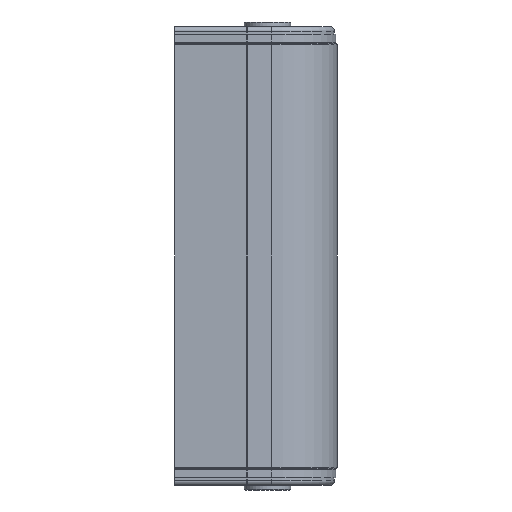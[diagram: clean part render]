
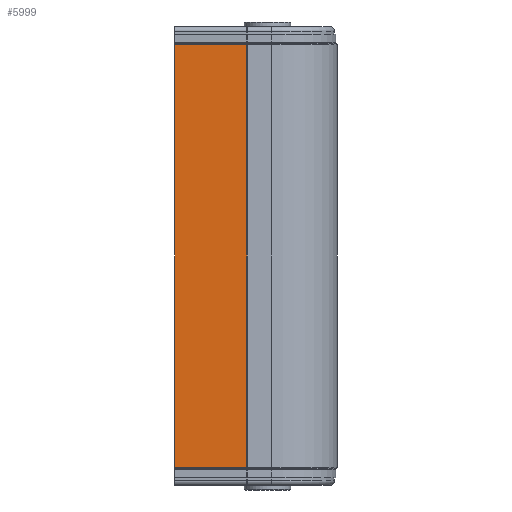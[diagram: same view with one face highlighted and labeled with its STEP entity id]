
A CAD part, front view. The second image highlights one B-rep face of the part: STEP entity #5999.
In plain terms, the highlighted planar face has unit normal (0, -1, 0).
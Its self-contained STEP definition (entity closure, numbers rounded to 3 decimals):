
#151 = DIRECTION ( 'NONE',  ( 0., 0., -1. ) ) ;
#623 = CARTESIAN_POINT ( 'NONE',  ( -100., -76.7, 227.6 ) ) ;
#813 = EDGE_CURVE ( 'NONE', #7490, #4607, #2989, .T. ) ;
#1000 = ORIENTED_EDGE ( 'NONE', *, *, #5049, .T. ) ;
#1053 = VERTEX_POINT ( 'NONE', #8150 ) ;
#1978 = DIRECTION ( 'NONE',  ( -1., 0., 0. ) ) ;
#2032 = VECTOR ( 'NONE', #6664, 1000. ) ;
#2105 = CARTESIAN_POINT ( 'NONE',  ( -22.259, -76.7, -227.6 ) ) ;
#2125 = VECTOR ( 'NONE', #4004, 1000. ) ;
#2498 = AXIS2_PLACEMENT_3D ( 'NONE', #4675, #5300, #1978 ) ;
#2617 = PLANE ( 'NONE',  #2498 ) ;
#2679 = CARTESIAN_POINT ( 'NONE',  ( -22.259, -76.7, -227.6 ) ) ;
#2989 = LINE ( 'NONE', #4206, #8561 ) ;
#3086 = CARTESIAN_POINT ( 'NONE',  ( -22.259, -76.7, 227.6 ) ) ;
#3741 = ORIENTED_EDGE ( 'NONE', *, *, #8254, .F. ) ;
#3828 = LINE ( 'NONE', #7279, #2032 ) ;
#4004 = DIRECTION ( 'NONE',  ( 0., 0., -1. ) ) ;
#4206 = CARTESIAN_POINT ( 'NONE',  ( -22.259, -76.7, 227.6 ) ) ;
#4404 = VERTEX_POINT ( 'NONE', #7968 ) ;
#4607 = VERTEX_POINT ( 'NONE', #2105 ) ;
#4675 = CARTESIAN_POINT ( 'NONE',  ( -22.259, -76.7, 227.6 ) ) ;
#5049 = EDGE_CURVE ( 'NONE', #7490, #4404, #3828, .T. ) ;
#5300 = DIRECTION ( 'NONE',  ( 0., 1., 0. ) ) ;
#5965 = FACE_OUTER_BOUND ( 'NONE', #8036, .T. ) ;
#5974 = EDGE_CURVE ( 'NONE', #4404, #1053, #7788, .T. ) ;
#5999 = ADVANCED_FACE ( 'NONE', ( #5965 ), #2617, .F. ) ;
#6664 = DIRECTION ( 'NONE',  ( -1., 0., 0. ) ) ;
#7279 = CARTESIAN_POINT ( 'NONE',  ( -22.259, -76.7, 227.6 ) ) ;
#7479 = ORIENTED_EDGE ( 'NONE', *, *, #5974, .T. ) ;
#7490 = VERTEX_POINT ( 'NONE', #3086 ) ;
#7531 = DIRECTION ( 'NONE',  ( -1., 0., 0. ) ) ;
#7788 = LINE ( 'NONE', #623, #2125 ) ;
#7968 = CARTESIAN_POINT ( 'NONE',  ( -100., -76.7, 227.6 ) ) ;
#7988 = VECTOR ( 'NONE', #7531, 1000. ) ;
#8036 = EDGE_LOOP ( 'NONE', ( #3741, #8433, #1000, #7479 ) ) ;
#8087 = LINE ( 'NONE', #2679, #7988 ) ;
#8150 = CARTESIAN_POINT ( 'NONE',  ( -100., -76.7, -227.6 ) ) ;
#8254 = EDGE_CURVE ( 'NONE', #4607, #1053, #8087, .T. ) ;
#8433 = ORIENTED_EDGE ( 'NONE', *, *, #813, .F. ) ;
#8561 = VECTOR ( 'NONE', #151, 1000. ) ;
